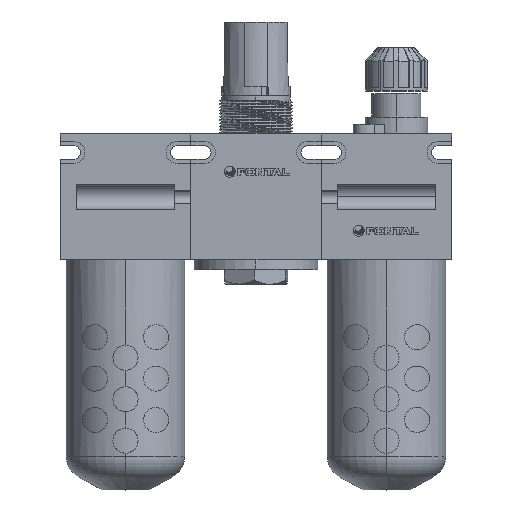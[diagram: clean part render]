
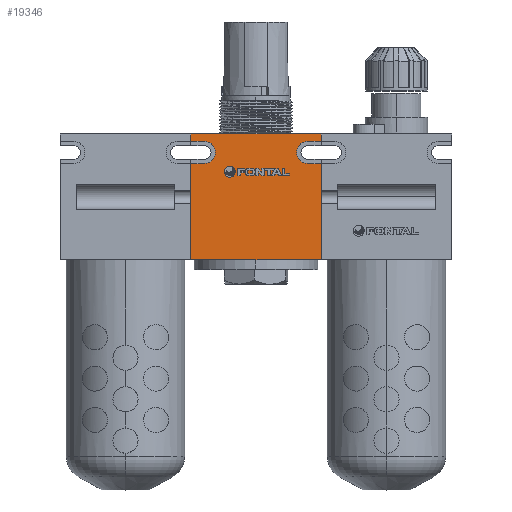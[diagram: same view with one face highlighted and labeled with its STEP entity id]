
A CAD part, top view. The second image highlights one B-rep face of the part: STEP entity #19346.
In plain terms, the highlighted planar face has unit normal (0, 0, 1).
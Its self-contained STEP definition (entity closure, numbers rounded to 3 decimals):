
#12 = DIRECTION ( 'NONE',  ( 0., 0., 1. ) ) ;
#13 = DIRECTION ( 'NONE',  ( 1., 0., 0. ) ) ;
#293 = LINE ( 'NONE', #16988, #8473 ) ;
#344 = ORIENTED_EDGE ( 'NONE', *, *, #9861, .F. ) ;
#352 = CARTESIAN_POINT ( 'NONE',  ( -26.5, -25.5, 25.5 ) ) ;
#631 = CARTESIAN_POINT ( 'NONE',  ( 21., 13.5, 25.5 ) ) ;
#1006 = CARTESIAN_POINT ( 'NONE',  ( 26.5, 22.5, 25.5 ) ) ;
#1279 = CARTESIAN_POINT ( 'NONE',  ( -26.5, 13.5, 25.5 ) ) ;
#1722 = AXIS2_PLACEMENT_3D ( 'NONE', #9761, #12, #6319 ) ;
#1859 = CARTESIAN_POINT ( 'NONE',  ( -16.5, 18., 25.5 ) ) ;
#2083 = ORIENTED_EDGE ( 'NONE', *, *, #7440, .T. ) ;
#2172 = LINE ( 'NONE', #12612, #11160 ) ;
#2420 = CARTESIAN_POINT ( 'NONE',  ( -26.5, 25.5, 25.5 ) ) ;
#2619 = VERTEX_POINT ( 'NONE', #352 ) ;
#2767 = EDGE_CURVE ( 'NONE', #7999, #19500, #20647, .T. ) ;
#2863 = DIRECTION ( 'NONE',  ( -1., 0., 0. ) ) ;
#2989 = VECTOR ( 'NONE', #14584, 1000. ) ;
#3176 = CARTESIAN_POINT ( 'NONE',  ( -26.5, -25.5, 25.5 ) ) ;
#3212 = VERTEX_POINT ( 'NONE', #11521 ) ;
#3441 = CARTESIAN_POINT ( 'NONE',  ( -21., 18., 25.5 ) ) ;
#3493 = ORIENTED_EDGE ( 'NONE', *, *, #14113, .T. ) ;
#3589 = CARTESIAN_POINT ( 'NONE',  ( 26.5, 25.5, 25.5 ) ) ;
#4157 = EDGE_CURVE ( 'NONE', #8014, #8182, #15586, .T. ) ;
#4446 = CIRCLE ( 'NONE', #15368, 4.5 ) ;
#5092 = DIRECTION ( 'NONE',  ( 1., 0., 0. ) ) ;
#5624 = DIRECTION ( 'NONE',  ( 0., 0., 1. ) ) ;
#5904 = DIRECTION ( 'NONE',  ( 0., 0., 1. ) ) ;
#5963 = PLANE ( 'NONE',  #1722 ) ;
#5979 = CARTESIAN_POINT ( 'NONE',  ( -21., 18., 25.5 ) ) ;
#6004 = DIRECTION ( 'NONE',  ( -1., 0., 0. ) ) ;
#6038 = VECTOR ( 'NONE', #2863, 1000. ) ;
#6319 = DIRECTION ( 'NONE',  ( 1., 0., 0. ) ) ;
#6522 = CIRCLE ( 'NONE', #17161, 4.5 ) ;
#6907 = CARTESIAN_POINT ( 'NONE',  ( 26.5, -25.5, 25.5 ) ) ;
#7161 = VERTEX_POINT ( 'NONE', #1279 ) ;
#7413 = DIRECTION ( 'NONE',  ( 0., 1., 0. ) ) ;
#7417 = VERTEX_POINT ( 'NONE', #19342 ) ;
#7440 = EDGE_CURVE ( 'NONE', #8182, #7999, #9601, .T. ) ;
#7619 = VERTEX_POINT ( 'NONE', #8909 ) ;
#7999 = VERTEX_POINT ( 'NONE', #1006 ) ;
#8014 = VERTEX_POINT ( 'NONE', #631 ) ;
#8182 = VERTEX_POINT ( 'NONE', #16777 ) ;
#8189 = LINE ( 'NONE', #9916, #13732 ) ;
#8473 = VECTOR ( 'NONE', #14198, 1000. ) ;
#8559 = CARTESIAN_POINT ( 'NONE',  ( -26.5, 13.5, 25.5 ) ) ;
#8909 = CARTESIAN_POINT ( 'NONE',  ( -21., 13.5, 25.5 ) ) ;
#9008 = EDGE_CURVE ( 'NONE', #17754, #7417, #4446, .T. ) ;
#9216 = VERTEX_POINT ( 'NONE', #14199 ) ;
#9451 = LINE ( 'NONE', #12241, #6038 ) ;
#9454 = CARTESIAN_POINT ( 'NONE',  ( 21., 18., 25.5 ) ) ;
#9467 = ORIENTED_EDGE ( 'NONE', *, *, #18456, .F. ) ;
#9523 = VECTOR ( 'NONE', #16562, 1000. ) ;
#9568 = CARTESIAN_POINT ( 'NONE',  ( 26.5, 25.5, 25.5 ) ) ;
#9601 = LINE ( 'NONE', #21092, #17360 ) ;
#9761 = CARTESIAN_POINT ( 'NONE',  ( 0., 0., 25.5 ) ) ;
#9861 = EDGE_CURVE ( 'NONE', #7619, #17754, #6522, .T. ) ;
#9916 = CARTESIAN_POINT ( 'NONE',  ( -26.5, 25.5, 25.5 ) ) ;
#10095 = VECTOR ( 'NONE', #11133, 1000. ) ;
#10149 = CARTESIAN_POINT ( 'NONE',  ( 26.5, 13.5, 25.5 ) ) ;
#10178 = ORIENTED_EDGE ( 'NONE', *, *, #17630, .T. ) ;
#10932 = EDGE_CURVE ( 'NONE', #2619, #21330, #20234, .T. ) ;
#11056 = AXIS2_PLACEMENT_3D ( 'NONE', #9454, #17453, #6004 ) ;
#11133 = DIRECTION ( 'NONE',  ( -1., 0., 0. ) ) ;
#11160 = VECTOR ( 'NONE', #7413, 1000. ) ;
#11521 = CARTESIAN_POINT ( 'NONE',  ( -26.5, 22.5, 25.5 ) ) ;
#12139 = ORIENTED_EDGE ( 'NONE', *, *, #19539, .T. ) ;
#12241 = CARTESIAN_POINT ( 'NONE',  ( 26.5, 13.5, 25.5 ) ) ;
#12278 = ORIENTED_EDGE ( 'NONE', *, *, #2767, .T. ) ;
#12612 = CARTESIAN_POINT ( 'NONE',  ( 26.5, 25.5, 25.5 ) ) ;
#12647 = DIRECTION ( 'NONE',  ( 0., 1., 0. ) ) ;
#13665 = ORIENTED_EDGE ( 'NONE', *, *, #9008, .F. ) ;
#13732 = VECTOR ( 'NONE', #20714, 1000. ) ;
#13786 = VECTOR ( 'NONE', #19867, 1000. ) ;
#14113 = EDGE_CURVE ( 'NONE', #19345, #8014, #9451, .T. ) ;
#14198 = DIRECTION ( 'NONE',  ( -1., 0., 0. ) ) ;
#14199 = CARTESIAN_POINT ( 'NONE',  ( -26.5, 25.5, 25.5 ) ) ;
#14271 = ORIENTED_EDGE ( 'NONE', *, *, #20307, .T. ) ;
#14368 = EDGE_CURVE ( 'NONE', #19500, #9216, #21248, .T. ) ;
#14514 = EDGE_CURVE ( 'NONE', #7161, #7619, #17950, .T. ) ;
#14584 = DIRECTION ( 'NONE',  ( 0., -1., 0. ) ) ;
#14591 = ORIENTED_EDGE ( 'NONE', *, *, #14514, .F. ) ;
#14634 = FACE_OUTER_BOUND ( 'NONE', #16333, .T. ) ;
#15122 = VECTOR ( 'NONE', #12647, 1000. ) ;
#15368 = AXIS2_PLACEMENT_3D ( 'NONE', #3441, #5904, #21517 ) ;
#15586 = CIRCLE ( 'NONE', #11056, 4.5 ) ;
#16333 = EDGE_LOOP ( 'NONE', ( #12139, #3493, #20279, #2083, #12278, #21529, #14271, #9467, #13665, #344, #14591, #10178, #20562 ) ) ;
#16562 = DIRECTION ( 'NONE',  ( 1., 0., 0. ) ) ;
#16777 = CARTESIAN_POINT ( 'NONE',  ( 21., 22.5, 25.5 ) ) ;
#16988 = CARTESIAN_POINT ( 'NONE',  ( -21., 22.5, 25.5 ) ) ;
#17161 = AXIS2_PLACEMENT_3D ( 'NONE', #5979, #5624, #13 ) ;
#17360 = VECTOR ( 'NONE', #5092, 1000. ) ;
#17453 = DIRECTION ( 'NONE',  ( 0., 0., -1. ) ) ;
#17630 = EDGE_CURVE ( 'NONE', #7161, #2619, #21200, .T. ) ;
#17754 = VERTEX_POINT ( 'NONE', #1859 ) ;
#17950 = LINE ( 'NONE', #8559, #9523 ) ;
#18456 = EDGE_CURVE ( 'NONE', #7417, #3212, #293, .T. ) ;
#19342 = CARTESIAN_POINT ( 'NONE',  ( -21., 22.5, 25.5 ) ) ;
#19345 = VERTEX_POINT ( 'NONE', #10149 ) ;
#19346 = ADVANCED_FACE ( 'NONE', ( #14634 ), #5963, .T. ) ;
#19500 = VERTEX_POINT ( 'NONE', #9568 ) ;
#19539 = EDGE_CURVE ( 'NONE', #21330, #19345, #2172, .T. ) ;
#19867 = DIRECTION ( 'NONE',  ( 1., 0., 0. ) ) ;
#20234 = LINE ( 'NONE', #3176, #13786 ) ;
#20279 = ORIENTED_EDGE ( 'NONE', *, *, #4157, .T. ) ;
#20307 = EDGE_CURVE ( 'NONE', #9216, #3212, #8189, .T. ) ;
#20562 = ORIENTED_EDGE ( 'NONE', *, *, #10932, .T. ) ;
#20647 = LINE ( 'NONE', #3589, #15122 ) ;
#20714 = DIRECTION ( 'NONE',  ( 0., -1., 0. ) ) ;
#20924 = CARTESIAN_POINT ( 'NONE',  ( -26.5, 25.5, 25.5 ) ) ;
#21092 = CARTESIAN_POINT ( 'NONE',  ( 21., 22.5, 25.5 ) ) ;
#21200 = LINE ( 'NONE', #2420, #2989 ) ;
#21248 = LINE ( 'NONE', #20924, #10095 ) ;
#21330 = VERTEX_POINT ( 'NONE', #6907 ) ;
#21517 = DIRECTION ( 'NONE',  ( 1., 0., 0. ) ) ;
#21529 = ORIENTED_EDGE ( 'NONE', *, *, #14368, .T. ) ;
